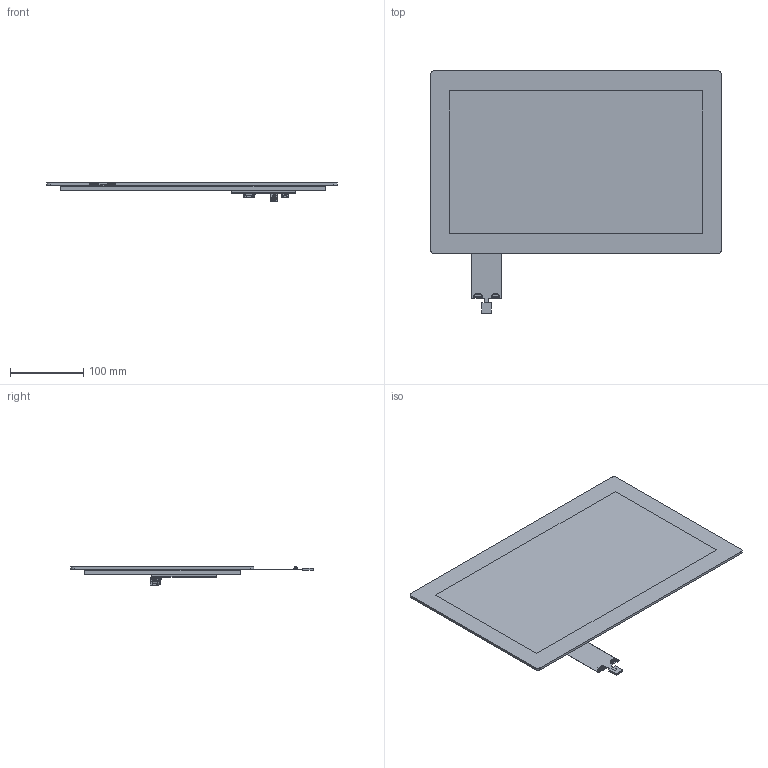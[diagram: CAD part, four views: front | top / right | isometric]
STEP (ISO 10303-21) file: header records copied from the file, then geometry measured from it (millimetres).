
FILE_DESCRIPTION (( 'STEP AP214' ), '1' );
FILE_NAME ('PDC156W-001 REV P1 STEP.STEP', '2025-10-27T20:34:59', ( '' ), ( '' ), 'SwSTEP 2.0', 'SolidWorks 2020', '' );
FILE_SCHEMA (( 'AUTOMOTIVE_DESIGN' ));
Length unit declared in the file: millimetre
Products named in the file (13): S3B-PH-SM4-TB(LF)(SN)_6; S3B-PH-SM4-TB_LF__SN_; PDC156W-001 REV P1 STEP; S3B-PH-SM4-TB(LF)(SN); 532610571; PJ-002AH-SMT-TR; PDC156W-001 DISPLAY; S3B-PH-SM4-TB(LF)(SN)_5; 10029449-111RLF; 532610671; S3B-PH-SM4-TB(LF)(SN)_2; S3B-PH-SM4-TB(LF)(SN)_3; S3B-PH-SM4-TB(LF)(SN)_4
Assembly tree (12 placements, depth 3):
  PDC156W-001 REV P1 STEP
    PDC156W-001 DISPLAY
    532610671
    532610571
    PJ-002AH-SMT-TR
    S3B-PH-SM4-TB_LF__SN_
      S3B-PH-SM4-TB(LF)(SN)_3
      S3B-PH-SM4-TB(LF)(SN)_6
      S3B-PH-SM4-TB(LF)(SN)_4
      S3B-PH-SM4-TB(LF)(SN)
      S3B-PH-SM4-TB(LF)(SN)_2
      S3B-PH-SM4-TB(LF)(SN)_5
    10029449-111RLF
Bounding box: 396 x 329.68 x 25.1 mm (x, y, z)
Volume: 875864.6 mm3; surface area: 558100.6 mm2
Topology: 16 solids, 20 shells, 2663 faces, 7422 edges, 4756 vertices
Faces by surface type: plane 2140, cylinder 405, bspline 82, cone 36
Entity records: 88432 total; most frequent: CARTESIAN_POINT 18861, ORIENTED_EDGE 14678, DIRECTION 12702, EDGE_CURVE 7398, LINE 5850, VECTOR 5850, VERTEX_POINT 4756, AXIS2_PLACEMENT_3D 3426
